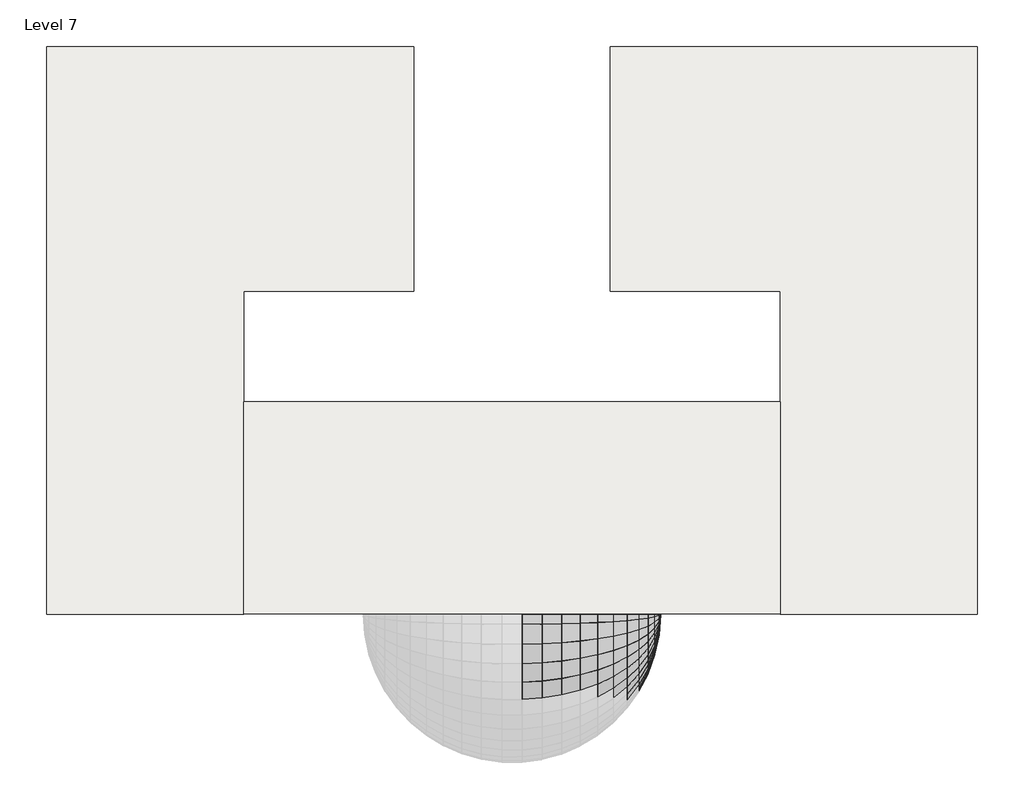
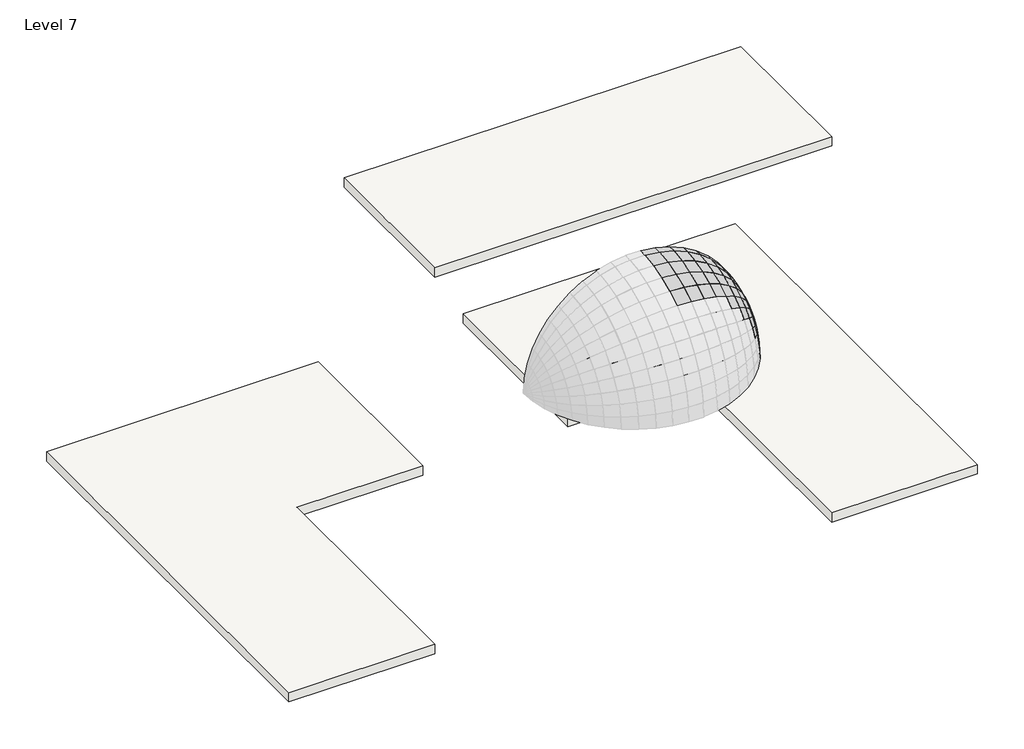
# One storey, part 3 of 3: 90 plates, 3 roofs.
"""IFC4 building model written with IfcOpenShell, lengths in millimetres."""

from ifc_helpers import new_model, si_unit, frame, origin, place, context, project, spatial, polyline, outline, extrude, transform, mapped, element, save
from components import system_panel_glazed_30935f6d, system_panel_glazed_eb1f5069, system_panel_glazed_b87b3be6, system_panel_glazed_8a0f903b, system_panel_glazed_b6e2143d, system_panel_glazed_bc95eb93, system_panel_glazed_24286d06, system_panel_glazed_dc89cc4e, system_panel_glazed_dedcf809, system_panel_glazed_f920294c, system_panel_glazed_0901b81b, system_panel_glazed_d780504f, system_panel_glazed_b232b679, system_panel_glazed_05db62c8, system_panel_glazed_337ec685, system_panel_glazed_171409ba, system_panel_glazed_d4a9f5d3, system_panel_glazed_a5a4bec3, system_panel_glazed_72c68c99, system_panel_glazed_d6295151, system_panel_glazed_cf8c54f4, system_panel_glazed_4cf14482

model = new_model("IFC4")

# Units and contexts
model_context = context("Model", 3, world=origin())
ifc_project = project(units=[si_unit("LENGTHUNIT", "METRE", prefix="MILLI")], contexts=[model_context])

# Site, building, storey
site = spatial("IfcSite", under=ifc_project)
building = spatial("IfcBuilding", under=site)
storey = spatial("IfcBuildingStorey", under=building, Name="Level 7", Elevation=24000.0)

# Plates
placement = place(None, origin())
system_panel_glazed_shape = system_panel_glazed_30935f6d(model_context)
element("IfcPlate", 1, ObjectType="System Panel : Glazed", at=placement, inside=storey, context=model_context, shape_type="MappedRepresentation", body=[
    mapped(system_panel_glazed_shape, transform((213.7767522, -3889.2705281, 19740.2473273), x_axis=(0.0, 0.8539456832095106, 0.5203621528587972), y_axis=(0.13435451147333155, -0.5156442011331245, 0.8462032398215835), z_axis=(0.9909333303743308, 0.06991300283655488, -0.11473145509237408))),
])
element("IfcPlate", 2, ObjectType="System Panel : Glazed", at=placement, inside=storey, context=model_context, shape_type="MappedRepresentation", body=[
    mapped(system_panel_glazed_shape, transform((213.7767522, -3359.2331108, 20015.5442861), x_axis=(0.0, 0.9167994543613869, 0.3993479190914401), y_axis=(0.13435451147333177, -0.39572716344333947, 0.9084871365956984), z_axis=(0.9909333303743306, 0.05365419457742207, -0.12317614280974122))),
])
element("IfcPlate", 3, ObjectType="System Panel : Glazed", at=placement, inside=storey, context=model_context, shape_type="MappedRepresentation", body=[
    mapped(system_panel_glazed_shape, transform((213.7767522, -2796.670593, 20216.172033), x_axis=(0.0, 0.9626053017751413, 0.27090779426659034), y_axis=(0.1343545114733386, -0.26845156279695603, 0.9538776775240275), z_axis=(0.9909333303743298, 0.036397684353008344, -0.12933036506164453))),
])
element("IfcPlate", 4, ObjectType="System Panel : Glazed", at=placement, inside=storey, context=model_context, shape_type="MappedRepresentation", body=[
    mapped(system_panel_glazed_shape, transform((213.7767522, -2212.043848, 20338.3998867), x_axis=(0.0, 0.9905114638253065, 0.137430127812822), y_axis=(0.13435451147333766, -0.13618409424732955, 0.9815308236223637), z_axis=(0.99093333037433, 0.018464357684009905, -0.13307968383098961))),
])
system_panel_glazed_2_shape = system_panel_glazed_eb1f5069(model_context)
element("IfcPlate", 5, ObjectType="System Panel : Glazed", at=placement, inside=storey, context=model_context, shape_type="MappedRepresentation", body=[
    mapped(system_panel_glazed_2_shape, transform((213.7767522, -1762.8296904, 20384.8562406), x_axis=(0.0, 0.9993939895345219, 0.03480881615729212), y_axis=(0.1345820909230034, -0.034492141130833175, 0.9903019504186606), z_axis=(0.9909024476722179, 0.004684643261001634, -0.13450053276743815))),
])
system_panel_glazed_3_shape = system_panel_glazed_b87b3be6(model_context)
element("IfcPlate", 6, ObjectType="System Panel : Glazed", at=placement, inside=storey, context=model_context, shape_type="MappedRepresentation", body=[
    mapped(system_panel_glazed_3_shape, transform((808.3116891, -3847.3244945, 19671.4113559), x_axis=(0.0, 0.853945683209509, 0.5203621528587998), y_axis=(0.2676379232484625, -0.5013791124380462, 0.8227933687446), z_axis=(0.9635195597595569, 0.13926864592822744, -0.22854824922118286))),
])
element("IfcPlate", 7, ObjectType="System Panel : Glazed", at=placement, inside=storey, context=model_context, shape_type="MappedRepresentation", body=[
    mapped(system_panel_glazed_3_shape, transform((808.3116891, -3327.041951, 19941.6417156), x_axis=(0.0, 0.916799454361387, 0.3993479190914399), y_axis=(0.26763792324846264, -0.3847795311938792, 0.8833542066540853), z_axis=(0.9635195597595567, 0.10688064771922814, -0.2453703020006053))),
])
element("IfcPlate", 8, ObjectType="System Panel : Glazed", at=placement, inside=storey, context=model_context, shape_type="MappedRepresentation", body=[
    mapped(system_panel_glazed_3_shape, transform((808.3116891, -2774.8329029, 20138.5770848), x_axis=(0.0, 0.9626053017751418, 0.2709077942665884), y_axis=(0.26763792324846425, -0.2610249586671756, 0.9274890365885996), z_axis=(0.9635195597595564, 0.07250519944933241, -0.2576296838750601))),
])
element("IfcPlate", 9, ObjectType="System Panel : Glazed", at=placement, inside=storey, context=model_context, shape_type="MappedRepresentation", body=[
    mapped(system_panel_glazed_3_shape, transform((808.3116891, -2200.9657004, 20258.555442), x_axis=(0.0, 0.9905114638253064, 0.13743012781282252), y_axis=(0.26763792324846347, -0.13241661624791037, 0.9543771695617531), z_axis=(0.9635195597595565, 0.03678151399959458, -0.26509843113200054))),
])
system_panel_glazed_4_shape = system_panel_glazed_8a0f903b(model_context)
element("IfcPlate", 10, ObjectType="System Panel : Glazed", at=placement, inside=storey, context=model_context, shape_type="MappedRepresentation", body=[
    mapped(system_panel_glazed_4_shape, transform((808.3116891, -1760.0189353, 20304.1568075), x_axis=(0.0, 0.9993939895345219, 0.034808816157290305), y_axis=(0.2680664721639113, -0.03353482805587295, 0.9628165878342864), z_axis=(0.963400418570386, 0.009331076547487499, -0.26790402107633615))),
])
system_panel_glazed_5_shape = system_panel_glazed_b6e2143d(model_context)
element("IfcPlate", 11, ObjectType="System Panel : Glazed", at=placement, inside=storey, context=model_context, shape_type="MappedRepresentation", body=[
    mapped(system_panel_glazed_5_shape, transform((1386.3267467, -3763.777281, 19534.3053386), x_axis=(0.0, 0.8539456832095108, 0.5203621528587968), y_axis=(0.3960065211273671, -0.4778213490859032, 0.7841336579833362), z_axis=(0.9182476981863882, 0.20606680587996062, -0.3381680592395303))),
])
element("IfcPlate", 12, ObjectType="System Panel : Glazed", at=placement, inside=storey, context=model_context, shape_type="MappedRepresentation", body=[
    mapped(system_panel_glazed_5_shape, transform((1386.3267467, -3262.9242867, 19794.4441546), x_axis=(0.0, 0.9167994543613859, 0.3993479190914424), y_axis=(0.39600652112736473, -0.36670030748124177, 0.8418489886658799), z_axis=(0.9182476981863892, 0.15814438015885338, -0.3630585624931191))),
])
element("IfcPlate", 13, ObjectType="System Panel : Glazed", at=placement, inside=storey, context=model_context, shape_type="MappedRepresentation", body=[
    mapped(system_panel_glazed_5_shape, transform((1386.3267467, -2731.3370584, 19984.0251247), x_axis=(0.0, 0.962605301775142, 0.27090779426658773), y_axis=(0.3960065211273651, -0.24876045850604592, 0.8839101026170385), z_axis=(0.9182476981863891, 0.10728125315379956, -0.3811979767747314))),
])
element("IfcPlate", 14, ObjectType="System Panel : Glazed", at=placement, inside=storey, context=model_context, shape_type="MappedRepresentation", body=[
    mapped(system_panel_glazed_5_shape, transform((1386.3267467, -2178.9004826, 20099.522983), x_axis=(0.0, 0.9905114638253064, 0.13743012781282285), y_axis=(0.39600652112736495, -0.1261948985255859, 0.9095348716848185), z_axis=(0.9182476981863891, 0.05442322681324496, -0.39224899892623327))),
])
system_panel_glazed_6_shape = system_panel_glazed_bc95eb93(model_context)
element("IfcPlate", 15, ObjectType="System Panel : Glazed", at=placement, inside=storey, context=model_context, shape_type="MappedRepresentation", body=[
    mapped(system_panel_glazed_6_shape, transform((1386.3267467, -1754.4205334, 20143.4214008), x_axis=(0.0, 0.999393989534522, 0.03480881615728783), y_axis=(0.39658230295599, -0.03195446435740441, 0.9174428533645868), z_axis=(0.9179991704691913, 0.013804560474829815, -0.3963419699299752))),
])
system_panel_glazed_7_shape = system_panel_glazed_24286d06(model_context)
element("IfcPlate", 16, ObjectType="System Panel : Glazed", at=placement, inside=storey, context=model_context, shape_type="MappedRepresentation", body=[
    mapped(system_panel_glazed_7_shape, transform((1937.073711, -3640.1824514, 19331.4787675), x_axis=(0.0, 0.8539456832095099, 0.5203621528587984), y_axis=(0.5170914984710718, -0.44539364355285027, 0.7309178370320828), z_axis=(0.8559301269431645, 0.2690748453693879, -0.4415680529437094))),
])
element("IfcPlate", 17, ObjectType="System Panel : Glazed", at=placement, inside=storey, context=model_context, shape_type="MappedRepresentation", body=[
    mapped(system_panel_glazed_7_shape, transform((1937.073711, -3168.0723883, 19576.6887476), x_axis=(0.0, 0.9167994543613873, 0.39934791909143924), y_axis=(0.5170914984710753, -0.34181391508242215, 0.7847162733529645), z_axis=(0.8559301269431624, 0.20649941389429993, -0.47406920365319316))),
])
element("IfcPlate", 18, ObjectType="System Panel : Glazed", at=placement, inside=storey, context=model_context, shape_type="MappedRepresentation", body=[
    mapped(system_panel_glazed_7_shape, transform((1937.073711, -2666.9918663, 19755.3900527), x_axis=(0.0, 0.9626053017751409, 0.2709077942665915), y_axis=(0.5170914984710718, -0.23187814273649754, 0.8239228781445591), z_axis=(0.8559301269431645, 0.14008411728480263, -0.4977550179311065))),
])
element("IfcPlate", 19, ObjectType="System Panel : Glazed", at=placement, inside=storey, context=model_context, shape_type="MappedRepresentation", body=[
    mapped(system_panel_glazed_7_shape, transform((1937.073711, -2146.2584983, 19864.2597246), x_axis=(0.0, 0.9905114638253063, 0.13743012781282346), y_axis=(0.5170914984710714, -0.11763058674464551, 0.8478086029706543), z_axis=(0.8559301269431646, 0.07106395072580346, -0.512185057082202))),
])
system_panel_glazed_8_shape = system_panel_glazed_dc89cc4e(model_context)
element("IfcPlate", 20, ObjectType="System Panel : Glazed", at=placement, inside=storey, context=model_context, shape_type="MappedRepresentation", body=[
    mapped(system_panel_glazed_8_shape, transform((1937.073711, -1746.1385871, 19905.6389018), x_axis=(0.0, 0.9993939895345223, 0.03480881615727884), y_axis=(0.5177445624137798, -0.029780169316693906, 0.8550167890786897), z_axis=(0.8555352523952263, 0.018022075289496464, -0.5174308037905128))),
])
system_panel_glazed_9_shape = system_panel_glazed_dedcf809(model_context)
element("IfcPlate", 21, ObjectType="System Panel : Glazed", at=placement, inside=storey, context=model_context, shape_type="MappedRepresentation", body=[
    mapped(system_panel_glazed_9_shape, transform((2450.3114195, -3878.6773192, 18783.9562834), x_axis=(0.0, 0.775212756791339, 0.6317002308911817), y_axis=(0.6286462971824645, -0.49126780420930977, 0.6028762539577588), z_axis=(0.7776913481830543, 0.39711601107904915, -0.4873346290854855))),
])
element("IfcPlate", 22, ObjectType="System Panel : Glazed", at=placement, inside=storey, context=model_context, shape_type="MappedRepresentation", body=[
    mapped(system_panel_glazed_9_shape, transform((2450.3114195, -3478.8382567, 19066.703211), x_axis=(0.0, 0.8539456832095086, 0.5203621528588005), y_axis=(0.6286462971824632, -0.4046811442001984, 0.6641061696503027), z_axis=(0.7776913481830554, 0.32712374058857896, -0.5368297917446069))),
])
element("IfcPlate", 23, ObjectType="System Panel : Glazed", at=placement, inside=storey, context=model_context, shape_type="MappedRepresentation", body=[
    mapped(system_panel_glazed_9_shape, transform((2450.3114195, -3044.250031, 19292.4246657), x_axis=(0.0, 0.9167994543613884, 0.39934791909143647), y_axis=(0.6286462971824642, -0.31056942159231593, 0.7129870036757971), z_axis=(0.7776913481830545, 0.2510485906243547, -0.5763425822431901))),
])
element("IfcPlate", 24, ObjectType="System Panel : Glazed", at=placement, inside=storey, context=model_context, shape_type="MappedRepresentation", body=[
    mapped(system_panel_glazed_9_shape, transform((2450.3114195, -2582.9938282, 19456.9233476), x_axis=(0.0, 0.9626053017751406, 0.2709077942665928), y_axis=(0.6286462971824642, -0.21068264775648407, 0.7486098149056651), z_axis=(0.7776913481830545, 0.17030518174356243, -0.6051382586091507))),
])
element("IfcPlate", 25, ObjectType="System Panel : Glazed", at=placement, inside=storey, context=model_context, shape_type="MappedRepresentation", body=[
    mapped(system_panel_glazed_9_shape, transform((2450.3114195, -2103.6467265, 19557.1403971), x_axis=(0.0, 0.9905114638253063, 0.13743012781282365), y_axis=(0.6286462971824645, -0.10687822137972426, 0.7703121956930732), z_axis=(0.7776913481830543, 0.08639494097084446, -0.6226813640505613))),
])
system_panel_glazed_10_shape = system_panel_glazed_f920294c(model_context)
element("IfcPlate", 26, ObjectType="System Panel : Glazed", at=placement, inside=storey, context=model_context, shape_type="MappedRepresentation", body=[
    mapped(system_panel_glazed_10_shape, transform((2450.3114195, -1735.3270997, 19595.2308861), x_axis=(0.0, 0.9993939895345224, 0.03480881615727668), y_axis=(0.6293015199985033, -0.02705206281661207, 0.7766902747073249), z_axis=(0.7771612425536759, 0.021905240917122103, -0.6289201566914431))),
])
system_panel_glazed_11_shape = system_panel_glazed_0901b81b(model_context)
element("IfcPlate", 27, ObjectType="System Panel : Glazed", at=placement, inside=storey, context=model_context, shape_type="MappedRepresentation", body=[
    mapped(system_panel_glazed_11_shape, transform((2916.4961959, -3960.752068, 18192.4121954), x_axis=(0.0, 0.6820647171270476, 0.7312918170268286), y_axis=(0.7285875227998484, -0.5009003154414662, 0.4671820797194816), z_axis=(0.6849527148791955, 0.532810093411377, -0.4969438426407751))),
])
element("IfcPlate", 28, ObjectType="System Panel : Glazed", at=placement, inside=storey, context=model_context, shape_type="MappedRepresentation", body=[
    mapped(system_panel_glazed_11_shape, transform((2916.4961959, -3640.627302, 18491.8249827), x_axis=(0.0, 0.7752127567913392, 0.6317002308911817), y_axis=(0.7285875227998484, -0.4326847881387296, 0.5309840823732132), z_axis=(0.6849527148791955, 0.4602489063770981, -0.5648103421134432))),
])
element("IfcPlate", 29, ObjectType="System Panel : Glazed", at=placement, inside=storey, context=model_context, shape_type="MappedRepresentation", body=[
    mapped(system_panel_glazed_11_shape, transform((2916.4961959, -3282.7448988, 18744.9021816), x_axis=(0.0, 0.8539456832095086, 0.5203621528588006), y_axis=(0.7285875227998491, -0.3564234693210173, 0.584912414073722), z_axis=(0.6849527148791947, 0.3791293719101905, -0.6221741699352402))),
])
element("IfcPlate", 30, ObjectType="System Panel : Glazed", at=placement, inside=storey, context=model_context, shape_type="MappedRepresentation", body=[
    mapped(system_panel_glazed_11_shape, transform((2916.4961959, -2893.7596966, 18946.937811), x_axis=(0.0, 0.916799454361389, 0.39934791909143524), y_axis=(0.7285875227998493, -0.2735344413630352, 0.6279642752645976), z_axis=(0.6849527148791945, 0.2909599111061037, -0.6679686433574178))),
])
element("IfcPlate", 31, ObjectType="System Panel : Glazed", at=placement, inside=storey, context=model_context, shape_type="MappedRepresentation", body=[
    mapped(system_panel_glazed_11_shape, transform((2916.4961959, -2480.9048912, 19094.17501), x_axis=(0.0, 0.9626053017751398, 0.27090779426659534), y_axis=(0.7285875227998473, -0.1855590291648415, 0.6593391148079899), z_axis=(0.6849527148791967, 0.19738003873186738, -0.7013422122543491))),
])
element("IfcPlate", 32, ObjectType="System Panel : Glazed", at=placement, inside=storey, context=model_context, shape_type="MappedRepresentation", body=[
    mapped(system_panel_glazed_11_shape, transform((2916.4961959, -2051.8575349, 19183.8758968), x_axis=(0.0, 0.9905114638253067, 0.13743012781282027), y_axis=(0.7285875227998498, -0.09413313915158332, 0.6784535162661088), z_axis=(0.6849527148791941, 0.10012987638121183, -0.7216742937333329))),
])
system_panel_glazed_12_shape = system_panel_glazed_d780504f(model_context)
element("IfcPlate", 33, ObjectType="System Panel : Glazed", at=placement, inside=storey, context=model_context, shape_type="MappedRepresentation", body=[
    mapped(system_panel_glazed_12_shape, transform((2916.4961959, -1722.1871111, 19217.9694035), x_axis=(0.0, 0.9993939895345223, 0.034808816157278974), y_axis=(0.7291763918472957, -0.023820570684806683, 0.6839110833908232), z_axis=(0.684325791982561, 0.02538176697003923, -0.7287345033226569))),
])
system_panel_glazed_13_shape = system_panel_glazed_b232b679(model_context)
element("IfcPlate", 34, ObjectType="System Panel : Glazed", at=placement, inside=storey, context=model_context, shape_type="MappedRepresentation", body=[
    mapped(system_panel_glazed_13_shape, transform((3326.9593148, -4076.9841919, 17276.9034085), x_axis=(0.0, 0.4596875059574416, 0.8880807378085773), y_axis=(0.8150351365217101, -0.5145642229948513, 0.2663482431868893), z_axis=(0.5794115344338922, 0.7238170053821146, -0.3746614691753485))),
])
element("IfcPlate", 35, ObjectType="System Panel : Glazed", at=placement, inside=storey, context=model_context, shape_type="MappedRepresentation", body=[
    mapped(system_panel_glazed_13_shape, transform((3326.9593148, -3880.330344, 17600.6411089), x_axis=(0.0, 0.5762336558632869, 0.8172850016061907), y_axis=(0.8150351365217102, -0.47354435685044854, 0.3338764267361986), z_axis=(0.5794115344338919, 0.6661159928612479, -0.46965067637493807))),
])
element("IfcPlate", 36, ObjectType="System Panel : Glazed", at=placement, inside=storey, context=model_context, shape_type="MappedRepresentation", body=[
    mapped(system_panel_glazed_13_shape, transform((3326.9593148, -3641.461571, 17894.6148217), x_axis=(0.0, 0.682064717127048, 0.7312918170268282), y_axis=(0.8150351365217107, -0.4237189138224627, 0.39519616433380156), z_axis=(0.5794115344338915, 0.5960285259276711, -0.5559067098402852))),
])
element("IfcPlate", 37, ObjectType="System Panel : Glazed", at=placement, inside=storey, context=model_context, shape_type="MappedRepresentation", body=[
    mapped(system_panel_glazed_13_shape, transform((3326.9593148, -3364.8196477, 18153.3580935), x_axis=(0.0, 0.7752127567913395, 0.6317002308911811), y_axis=(0.815035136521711, -0.3660144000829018, 0.44916721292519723), z_axis=(0.5794115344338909, 0.5148578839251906, -0.631825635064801))),
])
element("IfcPlate", 38, ObjectType="System Panel : Glazed", at=placement, inside=storey, context=model_context, shape_type="MappedRepresentation", body=[
    mapped(system_panel_glazed_13_shape, transform((3326.9593148, -3055.5487419, 18372.0595827), x_axis=(0.0, 0.853945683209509, 0.5203621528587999), y_axis=(0.8150351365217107, -0.30150383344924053, 0.494785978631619), z_axis=(0.5794115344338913, 0.4241134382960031, -0.6959957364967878))),
])
element("IfcPlate", 39, ObjectType="System Panel : Glazed", at=placement, inside=storey, context=model_context, shape_type="MappedRepresentation", body=[
    mapped(system_panel_glazed_13_shape, transform((3326.9593148, -2719.399759, 18546.6525259), x_axis=(0.0, 0.9167994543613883, 0.39934791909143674), y_axis=(0.8150351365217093, -0.23138679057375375, 0.531204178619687), z_axis=(0.5794115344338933, 0.3254825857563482, -0.7472237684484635))),
])
element("IfcPlate", 40, ObjectType="System Panel : Glazed", at=placement, inside=storey, context=model_context, shape_type="MappedRepresentation", body=[
    mapped(system_panel_glazed_13_shape, transform((3326.9593148, -2362.6234032, 18673.8903602), x_axis=(0.0, 0.9626053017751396, 0.27090779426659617), y_axis=(0.8150351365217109, -0.15696710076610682, 0.5577446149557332), z_axis=(0.5794115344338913, 0.22079937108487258, -0.784557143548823))),
])
element("IfcPlate", 41, ObjectType="System Panel : Glazed", at=placement, inside=storey, context=model_context, shape_type="MappedRepresentation", body=[
    mapped(system_panel_glazed_13_shape, transform((3326.9593148, -1991.8539456, 18751.4070927), x_axis=(0.0, 0.990511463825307, 0.1374301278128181), y_axis=(0.8150351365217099, -0.07962860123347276, 0.5739137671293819), z_axis=(0.5794115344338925, 0.11201038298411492, -0.807301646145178))),
])
system_panel_glazed_14_shape = system_panel_glazed_05db62c8(model_context)
element("IfcPlate", 42, ObjectType="System Panel : Glazed", at=placement, inside=storey, context=model_context, shape_type="MappedRepresentation", body=[
    mapped(system_panel_glazed_14_shape, transform((3326.9593148, -1706.9629601, 18780.8696469), x_axis=(0.0, 0.9993939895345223, 0.03480881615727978), y_axis=(0.8155063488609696, -0.020145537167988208, 0.5783973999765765), z_axis=(0.5787481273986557, 0.028386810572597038, -0.8150121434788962))),
])
system_panel_glazed_15_shape = system_panel_glazed_337ec685(model_context)
element("IfcPlate", 43, ObjectType="System Panel : Glazed", at=placement, inside=storey, context=model_context, shape_type="MappedRepresentation", body=[
    mapped(system_panel_glazed_15_shape, transform((3674.0681978, -3894.2773774, 16156.1022565), x_axis=(0.0, 0.06818181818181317, 0.9976729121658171), y_axis=(0.8863509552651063, -0.46193654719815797, 0.03156913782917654), z_axis=(0.4630140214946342, 0.8842883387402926, -0.06043301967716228))),
])
element("IfcPlate", 44, ObjectType="System Panel : Glazed", at=placement, inside=storey, context=model_context, shape_type="MappedRepresentation", body=[
    mapped(system_panel_glazed_15_shape, transform((3674.0681978, -3851.8031066, 16465.4040414), x_axis=(0.0, 0.20327761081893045, 0.9791211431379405), y_axis=(0.8863509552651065, -0.4533468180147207, 0.09412038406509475), z_axis=(0.46301402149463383, 0.8678449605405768, -0.18017530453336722))),
])
element("IfcPlate", 45, ObjectType="System Panel : Glazed", at=placement, inside=storey, context=model_context, shape_type="MappedRepresentation", body=[
    mapped(system_panel_glazed_15_shape, transform((3674.0681978, -3767.6443759, 16766.0516191), x_axis=(0.0, 0.33459344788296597, 0.9423625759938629), y_axis=(0.8863509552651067, -0.43632708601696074, 0.1549214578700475), z_axis=(0.4630140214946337, 0.835263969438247, -0.2965672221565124))),
])
element("IfcPlate", 46, ObjectType="System Panel : Glazed", at=placement, inside=storey, context=model_context, shape_type="MappedRepresentation", body=[
    mapped(system_panel_glazed_15_shape, transform((3674.0681978, -3643.3661204, 17052.4544352), x_axis=(0.0, 0.4596875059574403, 0.888080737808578), y_axis=(0.8863509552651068, -0.4111938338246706, 0.21284176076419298), z_axis=(0.46301402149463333, 0.787151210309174, -0.4074444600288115))),
])
element("IfcPlate", 47, ObjectType="System Panel : Glazed", at=placement, inside=storey, context=model_context, shape_type="MappedRepresentation", body=[
    mapped(system_panel_glazed_15_shape, transform((3674.0681978, -3481.2792992, 17319.2868175), x_axis=(0.0, 0.5762336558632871, 0.8172850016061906), y_axis=(0.8863509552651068, -0.37841441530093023, 0.26680426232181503), z_axis=(0.46301402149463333, 0.7244013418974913, -0.5107452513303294))),
])
element("IfcPlate", 48, ObjectType="System Panel : Glazed", at=placement, inside=storey, context=model_context, shape_type="MappedRepresentation", body=[
    mapped(system_panel_glazed_15_shape, transform((3674.0681978, -3284.3979236, 17561.5870071), x_axis=(0.0, 0.6820647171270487, 0.7312918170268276), y_axis=(0.8863509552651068, -0.3385983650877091, 0.3158055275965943), z_axis=(0.4630140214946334, 0.6481812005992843, -0.6045487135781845))),
])
element("IfcPlate", 49, ObjectType="System Panel : Glazed", at=placement, inside=storey, context=model_context, shape_type="MappedRepresentation", body=[
    mapped(system_panel_glazed_15_shape, transform((3674.0681978, -3056.383011, 17774.8494216), x_axis=(0.0, 0.7752127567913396, 0.631700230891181), y_axis=(0.8863509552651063, -0.29248606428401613, 0.3589343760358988), z_axis=(0.4630140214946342, 0.5599081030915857, -0.6871105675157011))),
])
element("IfcPlate", 50, ObjectType="System Panel : Glazed", at=placement, inside=storey, context=model_context, shape_type="MappedRepresentation", body=[
    mapped(system_panel_glazed_15_shape, transform((3674.0681978, -2801.4745079, 17955.1084379), x_axis=(0.0, 0.8539456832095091, 0.5203621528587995), y_axis=(0.8863509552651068, -0.24093497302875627, 0.39538882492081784), z_axis=(0.4630140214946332, 0.4612234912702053, -0.7568955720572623))),
])
element("IfcPlate", 51, ObjectType="System Panel : Glazed", at=placement, inside=storey, context=model_context, shape_type="MappedRepresentation", body=[
    mapped(system_panel_glazed_15_shape, transform((3674.0681978, -2524.4124486, 18099.0121319), x_axis=(0.0, 0.9167994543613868, 0.3993479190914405), y_axis=(0.8863509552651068, -0.18490368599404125, 0.42449100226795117), z_axis=(0.46301402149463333, 0.35396240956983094, -0.8126060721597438))),
])
element("IfcPlate", 52, ObjectType="System Panel : Glazed", at=placement, inside=storey, context=model_context, shape_type="MappedRepresentation", body=[
    mapped(system_panel_glazed_15_shape, transform((3674.0681978, -2230.3488134, 18203.8846086), x_axis=(0.0, 0.9626053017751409, 0.2709077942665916), y_axis=(0.8863509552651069, -0.1254341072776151, 0.44569975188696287), z_axis=(0.46301402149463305, 0.24011938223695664, -0.8532061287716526))),
])
element("IfcPlate", 53, ObjectType="System Panel : Glazed", at=placement, inside=storey, context=model_context, shape_type="MappedRepresentation", body=[
    mapped(system_panel_glazed_15_shape, transform((3674.0681978, -1924.7517279, 18267.77576), x_axis=(0.0, 0.9905114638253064, 0.1374301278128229), y_axis=(0.8863509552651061, -0.06363207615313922, 0.4586206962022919), z_axis=(0.4630140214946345, 0.12181132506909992, -0.8779407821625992))),
])
system_panel_glazed_16_shape = system_panel_glazed_171409ba(model_context)
element("IfcPlate", 54, ObjectType="System Panel : Glazed", at=placement, inside=storey, context=model_context, shape_type="MappedRepresentation", body=[
    mapped(system_panel_glazed_16_shape, transform((3674.0681978, -1689.9377402, 18292.0595043), x_axis=(0.0, 0.9993939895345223, 0.03480881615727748), y_axis=(0.8866780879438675, -0.016095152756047, 0.46210703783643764), z_axis=(0.4623872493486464, 0.030864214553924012, -0.8861407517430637))),
])
system_panel_glazed_17_shape = system_panel_glazed_d4a9f5d3(model_context)
element("IfcPlate", 55, ObjectType="System Panel : Glazed", at=placement, inside=storey, context=model_context, shape_type="MappedRepresentation", body=[
    mapped(system_panel_glazed_17_shape, transform((3951.3683406, -3364.6750947, 16119.9087845), x_axis=(0.0, 0.0681818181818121, 0.9976729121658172), y_axis=(0.9411741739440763, -0.33713547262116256, 0.023040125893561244), z_axis=(0.3379218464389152, 0.9389839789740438, -0.06417096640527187))),
])
element("IfcPlate", 56, ObjectType="System Panel : Glazed", at=placement, inside=storey, context=model_context, shape_type="MappedRepresentation", body=[
    mapped(system_panel_glazed_17_shape, transform((3951.3683406, -3332.0488003, 16357.4966448), x_axis=(0.0, 0.20327761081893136, 0.9791211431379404), y_axis=(0.9411741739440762, -0.33086642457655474, 0.0686919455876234), z_axis=(0.33792184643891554, 0.9215235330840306, -0.19131963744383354))),
])
element("IfcPlate", 57, ObjectType="System Panel : Glazed", at=placement, inside=storey, context=model_context, shape_type="MappedRepresentation", body=[
    mapped(system_panel_glazed_17_shape, transform((3951.3683406, -3267.4028987, 16588.4368401), x_axis=(0.0, 0.33459344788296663, 0.9423625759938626), y_axis=(0.9411741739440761, -0.3184449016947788, 0.11306643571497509), z_axis=(0.33792184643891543, 0.8869273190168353, -0.3149107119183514))),
])
element("IfcPlate", 58, ObjectType="System Panel : Glazed", at=placement, inside=storey, context=model_context, shape_type="MappedRepresentation", body=[
    mapped(system_panel_glazed_17_shape, transform((3951.3683406, -3171.9394832, 16808.4350281), x_axis=(0.0, 0.4596875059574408, 0.8880807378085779), y_axis=(0.9411741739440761, -0.3001018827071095, 0.15533845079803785), z_axis=(0.33792184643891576, 0.8358386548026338, -0.4326460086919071))),
])
element("IfcPlate", 59, ObjectType="System Panel : Glazed", at=placement, inside=storey, context=model_context, shape_type="MappedRepresentation", body=[
    mapped(system_panel_glazed_17_shape, transform((3951.3683406, -3047.4337, 17013.4003334), x_axis=(0.0, 0.5762336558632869, 0.8172850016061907), y_axis=(0.9411741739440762, -0.27617845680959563, 0.19472194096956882), z_axis=(0.33792184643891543, 0.7692075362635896, -0.542336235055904))),
])
element("IfcPlate", 60, ObjectType="System Panel : Glazed", at=placement, inside=storey, context=model_context, shape_type="MappedRepresentation", body=[
    mapped(system_panel_glazed_17_shape, transform((3951.3683406, -2896.2007391, 17199.5214175), x_axis=(0.0, 0.6820647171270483, 0.7312918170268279), y_axis=(0.941174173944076, -0.24711948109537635, 0.23048456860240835), z_axis=(0.337921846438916, 0.6882729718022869, -0.6419416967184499))),
])
element("IfcPlate", 61, ObjectType="System Panel : Glazed", at=placement, inside=storey, context=model_context, shape_type="MappedRepresentation", body=[
    mapped(system_panel_glazed_17_shape, transform((3951.3683406, -2721.0527838, 17363.3373514), x_axis=(0.0, 0.7752127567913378, 0.6317002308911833), y_axis=(0.9411741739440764, -0.2134653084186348, 0.26196132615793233), z_axis=(0.33792184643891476, 0.5945399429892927, -0.7296102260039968))),
])
element("IfcPlate", 62, ObjectType="System Panel : Glazed", at=placement, inside=storey, context=model_context, shape_type="MappedRepresentation", body=[
    mapped(system_panel_glazed_17_shape, transform((3951.3683406, -2525.2467176, 17501.8019708), x_axis=(0.0, 0.8539456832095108, 0.520362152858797), y_axis=(0.9411741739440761, -0.1758417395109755, 0.2885669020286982), z_axis=(0.33792184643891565, 0.4897514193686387, -0.8037116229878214))),
])
element("IfcPlate", 63, ObjectType="System Panel : Glazed", at=placement, inside=storey, context=model_context, shape_type="MappedRepresentation", body=[
    mapped(system_panel_glazed_17_shape, transform((3951.3683406, -2312.4235623, 17612.3405206), x_axis=(0.0, 0.9167994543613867, 0.3993479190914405), y_axis=(0.941174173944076, -0.13494838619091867, 0.30980656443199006), z_axis=(0.33792184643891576, 0.37585594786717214, -0.8628679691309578))),
])
element("IfcPlate", 64, ObjectType="System Panel : Glazed", at=placement, inside=storey, context=model_context, shape_type="MappedRepresentation", body=[
    mapped(system_panel_glazed_17_shape, transform((3951.3683406, -2086.5407733, 17692.8975317), x_axis=(0.0, 0.962605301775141, 0.27090779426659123), y_axis=(0.9411741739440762, -0.09154566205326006, 0.3252853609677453), z_axis=(0.3379218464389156, 0.2549714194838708, -0.9059792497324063))),
])
element("IfcPlate", 65, ObjectType="System Panel : Glazed", at=placement, inside=storey, context=model_context, shape_type="MappedRepresentation", body=[
    mapped(system_panel_glazed_17_shape, transform((3951.3683406, -1851.7986503, 17741.9750433), x_axis=(0.0, 0.9905114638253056, 0.1374301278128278), y_axis=(0.9411741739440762, -0.046440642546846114, 0.33471546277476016), z_axis=(0.3379218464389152, 0.1293456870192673, -0.9322438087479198))),
])
system_panel_glazed_18_shape = system_panel_glazed_a5a4bec3(model_context)
element("IfcPlate", 66, ObjectType="System Panel : Glazed", at=placement, inside=storey, context=model_context, shape_type="MappedRepresentation", body=[
    mapped(system_panel_glazed_18_shape, transform((3951.3683406, -1671.4280362, 17760.6284204), x_axis=(0.0, 0.9993939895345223, 0.03480881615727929), y_axis=(0.9413591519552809, -0.011744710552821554, 0.3372017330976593), z_axis=(0.3374062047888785, 0.032767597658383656, -0.9407886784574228))),
])
system_panel_glazed_19_shape = system_panel_glazed_72c68c99(model_context)
element("IfcPlate", 67, ObjectType="System Panel : Glazed", at=placement, inside=storey, context=model_context, shape_type="MappedRepresentation", body=[
    mapped(system_panel_glazed_19_shape, transform((4153.7033358, -2802.4465177, 16081.4856038), x_axis=(0.0, 0.06818181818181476, 0.997672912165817), y_axis=(0.9784524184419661, -0.205991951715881, 0.014077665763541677), z_axis=(0.20647243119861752, 0.9761754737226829, -0.06671266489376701))),
])
element("IfcPlate", 68, ObjectType="System Panel : Glazed", at=placement, inside=storey, context=model_context, shape_type="MappedRepresentation", body=[
    mapped(system_panel_glazed_19_shape, transform((4153.7033358, -2780.2748869, 16242.9415832), x_axis=(0.0, 0.20327761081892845, 0.979121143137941), y_axis=(0.9784524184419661, -0.2021615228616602, 0.04197122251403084), z_axis=(0.20647243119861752, 0.9580234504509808, -0.19889746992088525))),
])
element("IfcPlate", 69, ObjectType="System Panel : Glazed", at=placement, inside=storey, context=model_context, shape_type="MappedRepresentation", body=[
    mapped(system_panel_glazed_19_shape, transform((4153.7033358, -2736.3439076, 16399.8800538), x_axis=(0.0, 0.33459344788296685, 0.9423625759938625), y_axis=(0.9784524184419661, -0.19457189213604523, 0.06908432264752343), z_axis=(0.20647243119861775, 0.9220569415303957, -0.327383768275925))),
])
element("IfcPlate", 70, ObjectType="System Panel : Glazed", at=placement, inside=storey, context=model_context, shape_type="MappedRepresentation", body=[
    mapped(system_panel_glazed_19_shape, transform((4153.7033358, -2671.4704784, 16549.3827383), x_axis=(0.0, 0.45968750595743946, 0.8880807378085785), y_axis=(0.9784524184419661, -0.18336418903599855, 0.0949127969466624), z_axis=(0.20647243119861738, 0.8689447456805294, -0.4497823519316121))),
])
element("IfcPlate", 71, ObjectType="System Panel : Glazed", at=placement, inside=storey, context=model_context, shape_type="MappedRepresentation", body=[
    mapped(system_panel_glazed_19_shape, transform((4153.7033358, -2586.8609232, 16688.6696281), x_axis=(0.0, 0.576233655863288, 0.81728500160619), y_axis=(0.9784524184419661, -0.16874682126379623, 0.11897636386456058), z_axis=(0.20647243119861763, 0.7996744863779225, -0.5638172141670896))),
])
element("IfcPlate", 72, ObjectType="System Panel : Glazed", at=placement, inside=storey, context=model_context, shape_type="MappedRepresentation", body=[
    mapped(system_panel_glazed_19_shape, transform((4153.7033358, -2484.0885602, 16815.1506777), x_axis=(0.0, 0.6820647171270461, 0.7312918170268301), y_axis=(0.9784524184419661, -0.15099159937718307, 0.14082756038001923), z_axis=(0.20647243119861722, 0.7155342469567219, -0.6673678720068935))),
])
element("IfcPlate", 73, ObjectType="System Panel : Glazed", at=placement, inside=storey, context=model_context, shape_type="MappedRepresentation", body=[
    mapped(system_panel_glazed_19_shape, transform((4153.7033358, -2365.0644458, 16926.4739667), x_axis=(0.0, 0.7752127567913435, 0.6317002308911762), y_axis=(0.9784524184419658, -0.13042868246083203, 0.16006006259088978), z_axis=(0.2064724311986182, 0.6180886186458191, -0.7585087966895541))),
])
element("IfcPlate", 74, ObjectType="System Panel : Glazed", at=placement, inside=storey, context=model_context, shape_type="MappedRepresentation", body=[
    mapped(system_panel_glazed_19_shape, transform((4153.7033358, -2232.0018383, 17020.5694341), x_axis=(0.0, 0.8539456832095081, 0.5203621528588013), y_axis=(0.9784524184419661, -0.10744043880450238, 0.1763162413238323), z_axis=(0.20647243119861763, 0.5091496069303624, -0.8355452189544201))),
])
element("IfcPlate", 75, ObjectType="System Panel : Glazed", at=placement, inside=storey, context=model_context, shape_type="MappedRepresentation", body=[
    mapped(system_panel_glazed_19_shape, transform((4153.7033358, -2087.3750423, 17095.6873706), x_axis=(0.0, 0.9167994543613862, 0.3993479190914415), y_axis=(0.9784524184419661, -0.08245433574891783, 0.18929381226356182), z_axis=(0.20647243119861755, 0.3907429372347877, -0.8970446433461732))),
])
element("IfcPlate", 76, ObjectType="System Panel : Glazed", at=placement, inside=storey, context=model_context, shape_type="MappedRepresentation", body=[
    mapped(system_panel_glazed_19_shape, transform((4153.7033358, -1933.8733992, 17150.4309553), x_axis=(0.0, 0.9626053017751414, 0.27090779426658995), y_axis=(0.9784524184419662, -0.05593499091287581, 0.19875145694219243), z_axis=(0.20647243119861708, 0.2650703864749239, -0.9418634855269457))),
])
element("IfcPlate", 77, ObjectType="System Panel : Glazed", at=placement, inside=storey, context=model_context, shape_type="MappedRepresentation", body=[
    mapped(system_panel_glazed_19_shape, transform((4153.7033358, -1774.3512783, 17183.7822287), x_axis=(0.0, 0.990511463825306, 0.13743012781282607), y_axis=(0.978452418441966, -0.028375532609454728, 0.2045133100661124), z_axis=(0.20647243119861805, 0.13446884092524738, -0.9691683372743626))),
])
system_panel_glazed_20_shape = system_panel_glazed_d6295151(model_context)
element("IfcPlate", 78, ObjectType="System Panel : Glazed", at=placement, inside=storey, context=model_context, shape_type="MappedRepresentation", body=[
    mapped(system_panel_glazed_20_shape, transform((4153.7033358, -1651.7780369, 17196.4583784), x_axis=(0.0, 0.9993939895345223, 0.03480881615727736), y_axis=(0.978524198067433, -0.007175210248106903, 0.206007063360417), z_axis=(0.20613198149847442, 0.03406126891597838, -0.9779312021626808))),
])
system_panel_glazed_21_shape = system_panel_glazed_cf8c54f4(model_context)
element("IfcPlate", 79, ObjectType="System Panel : Glazed", at=placement, inside=storey, context=model_context, shape_type="MappedRepresentation", body=[
    mapped(system_panel_glazed_21_shape, transform((4277.3107558, -2218.0463098, 16041.5471949), x_axis=(0.0, 0.06818181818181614, 0.997672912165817), y_axis=(0.9974667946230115, -0.07096809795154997, 0.004850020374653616), z_axis=(0.07113363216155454, 0.9951456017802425, -0.06800909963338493))),
])
element("IfcPlate", 80, ObjectType="System Panel : Glazed", at=placement, inside=storey, context=model_context, shape_type="MappedRepresentation", body=[
    mapped(system_panel_glazed_21_shape, transform((4277.3107558, -2206.741625, 16123.8690128), x_axis=(0.0, 0.20327761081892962, 0.9791211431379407), y_axis=(0.9974667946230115, -0.06964844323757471, 0.014459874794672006), z_axis=(0.07113363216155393, 0.9766408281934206, -0.2027626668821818))),
])
element("IfcPlate", 81, ObjectType="System Panel : Glazed", at=placement, inside=storey, context=model_context, shape_type="MappedRepresentation", body=[
    mapped(system_panel_glazed_21_shape, transform((4277.3107558, -2184.3424665, 16203.8874814), x_axis=(0.0, 0.33459344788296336, 0.9423625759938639), y_axis=(0.9974667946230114, -0.06703367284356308, 0.023800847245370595), z_axis=(0.0711336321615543, 0.9399753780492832, -0.3337458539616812))),
])
element("IfcPlate", 82, ObjectType="System Panel : Glazed", at=placement, inside=storey, context=model_context, shape_type="MappedRepresentation", body=[
    mapped(system_panel_glazed_21_shape, transform((4277.3107558, -2151.2653476, 16280.1146538), x_axis=(0.0, 0.4596875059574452, 0.8880807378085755), y_axis=(0.9974667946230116, -0.06317240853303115, 0.03269924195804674), z_axis=(0.07113363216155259, 0.8858310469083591, -0.45852302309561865))),
])
element("IfcPlate", 83, ObjectType="System Panel : Glazed", at=placement, inside=storey, context=model_context, shape_type="MappedRepresentation", body=[
    mapped(system_panel_glazed_21_shape, transform((4277.3107558, -2108.1253386, 16351.1330826), x_axis=(0.0, 0.576233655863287, 0.8172850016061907), y_axis=(0.9974667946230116, -0.058136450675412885, 0.04098959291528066), z_axis=(0.07113363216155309, 0.8152146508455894, -0.5747739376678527))),
])
element("IfcPlate", 84, ObjectType="System Panel : Glazed", at=placement, inside=storey, context=model_context, shape_type="MappedRepresentation", body=[
    mapped(system_panel_glazed_21_shape, transform((4277.3107558, -2055.7246298, 16415.6221773), x_axis=(0.0, 0.682064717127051, 0.7312918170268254), y_axis=(0.9974667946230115, -0.052019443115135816, 0.0485177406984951), z_axis=(0.07113363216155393, 0.7294393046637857, -0.6803369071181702))),
])
element("IfcPlate", 85, ObjectType="System Panel : Glazed", at=placement, inside=storey, context=model_context, shape_type="MappedRepresentation", body=[
    mapped(system_panel_glazed_21_shape, transform((4277.3107558, -1995.0376146, 16472.3827604), x_axis=(0.0, 0.7752127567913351, 0.6317002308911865), y_axis=(0.9974667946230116, -0.04493513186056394, 0.05514369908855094), z_axis=(0.07113363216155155, 0.6301000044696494, -0.7732489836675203))),
])
element("IfcPlate", 86, ObjectType="System Panel : Glazed", at=placement, inside=storey, context=model_context, shape_type="MappedRepresentation", body=[
    mapped(system_panel_glazed_21_shape, transform((4277.3107558, -1927.1927705, 16520.3593665), x_axis=(0.0, 0.8539456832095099, 0.5203621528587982), y_axis=(0.9974667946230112, -0.037015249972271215, 0.060744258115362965), z_axis=(0.07113363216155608, 0.5190439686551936, -0.8517824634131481))),
])
element("IfcPlate", 87, ObjectType="System Panel : Glazed", at=placement, inside=storey, context=model_context, shape_type="MappedRepresentation", body=[
    mapped(system_panel_glazed_21_shape, transform((4277.3107558, -1853.4516752, 16558.6598688), x_axis=(0.0, 0.9167994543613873, 0.3993479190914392), y_axis=(0.9974667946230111, -0.02840706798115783, 0.06521527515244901), z_axis=(0.07113363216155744, 0.3983362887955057, -0.9144770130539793))),
])
element("IfcPlate", 88, ObjectType="System Panel : Glazed", at=placement, inside=storey, context=model_context, shape_type="MappedRepresentation", body=[
    mapped(system_panel_glazed_21_shape, transform((4277.3107558, -1775.1855473, 16586.5720676), x_axis=(0.0, 0.962605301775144, 0.27090779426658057), y_axis=(0.9974667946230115, -0.019270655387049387, 0.06847361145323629), z_axis=(0.07113363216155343, 0.27022152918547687, -0.9601668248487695))),
])
element("IfcPlate", 89, ObjectType="System Panel : Glazed", at=placement, inside=storey, context=model_context, shape_type="MappedRepresentation", body=[
    mapped(system_panel_glazed_21_shape, transform((4277.3107558, -1693.8497489, 16603.5769347), x_axis=(0.0, 0.990511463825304, 0.13743012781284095), y_axis=(0.9974667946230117, -0.009775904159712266, 0.07045867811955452), z_axis=(0.07113363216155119, 0.13708198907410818, -0.9880022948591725))),
])
system_panel_glazed_22_shape = system_panel_glazed_4cf14482(model_context)
element("IfcPlate", 90, ObjectType="System Panel : Glazed", at=placement, inside=storey, context=model_context, shape_type="MappedRepresentation", body=[
    mapped(system_panel_glazed_22_shape, transform((4277.3107558, -1631.3531346, 16610.0401434), x_axis=(0.0, 0.9993939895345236, 0.03480881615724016), y_axis=(0.9974754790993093, -0.0024718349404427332, 0.07096871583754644), z_axis=(0.07101174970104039, 0.034720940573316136, -0.9968709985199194))),
])

# Roofs
element("IfcRoof", 91, ObjectType="Generic - 400mm", at=placement, inside=storey, context=model_context, shape_type="SweptSolid", body=[
    extrude(outline(polyline([(-8113.532296, 4748.602516), (7953.3508723, 4748.602516), (7953.3508723, -1610.1054831), (-8113.532296, -1610.1054831), (-8113.532296, 4748.602516)])), frame((0.0, 0.0, 22208.3734112), z_axis=(0.0, 0.0, 1.0), x_axis=(1.0, 0.0, 0.0)), (0.0, 0.0, 1.0), 400.0),
])
element("IfcRoof", 92, ObjectType="Generic - 400mm", at=placement, inside=storey, context=model_context, shape_type="SweptSolid", body=[
    extrude(outline(polyline([(13862.2459218, 15389.8945169), (13862.2459218, 6889.8945169), (13862.2459218, -1610.1054831), (7953.3508723, -1610.1054831), (7953.3508723, 8063.1361645), (2862.2459218, 8063.1361645), (2862.2459218, 15389.8945169), (13862.2459218, 15389.8945169)])), frame((0.0, 0.0, 6096.0), z_axis=(0.0, 0.0, 1.0), x_axis=(1.0, 0.0, 0.0)), (0.0, 0.0, 1.0), 400.0),
])
element("IfcRoof", 93, ObjectType="Generic - 400mm", at=placement, inside=storey, context=model_context, shape_type="SweptSolid", body=[
    extrude(outline(polyline([(-14022.4273455, 15389.8945169), (-3022.4273455, 15389.8945169), (-3022.4273455, 8063.1361645), (-8113.532296, 8063.1361645), (-8113.532296, -1610.1054831), (-14022.4273455, -1610.1054831), (-14022.4273455, 15389.8945169)])), frame((0.0, 0.0, 6096.0), z_axis=(0.0, 0.0, 1.0), x_axis=(1.0, 0.0, 0.0)), (0.0, 0.0, 1.0), 400.0),
])

save(model, "model.ifc")
